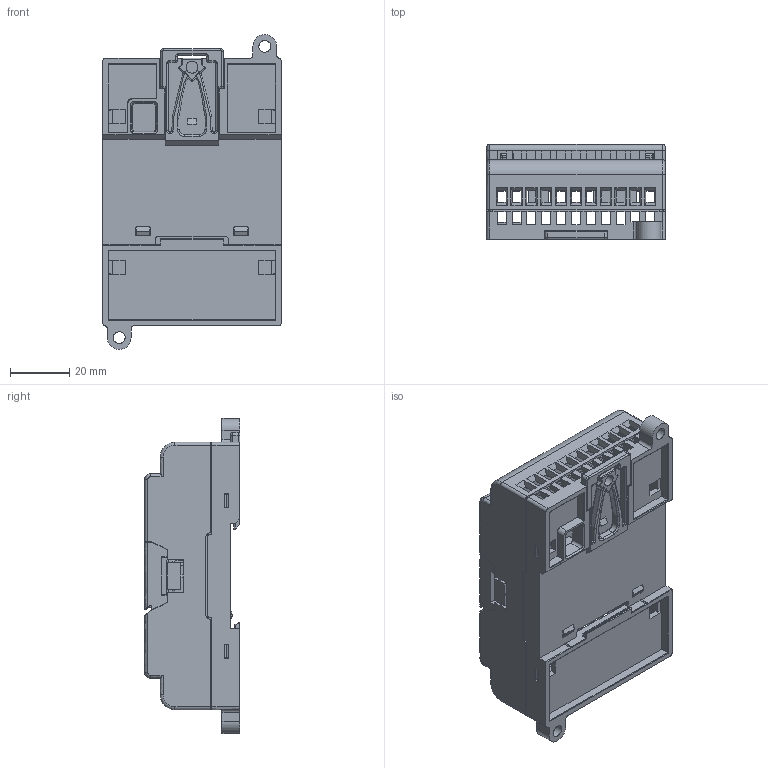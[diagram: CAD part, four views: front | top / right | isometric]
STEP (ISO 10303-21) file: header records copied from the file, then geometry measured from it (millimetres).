
FILE_DESCRIPTION(/* description */ (''),/* implementation_level */ '2;1');
FILE_NAME(/* name */ 'b1-14m-slim-20210609',/* time_stamp */ '2021-12-10T04:10:35+08:00',/* author */ (''),/* organization */ (''),/* preprocessor_version */ 'ST-DEVELOPER v16.5',/* originating_system */ '',/* authorisation */ '');
FILE_SCHEMA (('AUTOMOTIVE_DESIGN'));
Length unit declared in the file: millimetre
Products named in the file (6): Document; JOIN; B1-NEW-14M-DOWN_COVER_THIN; CV_PS; B1-14M-IO2_COVER; B1-NEW-14M-UP_COVER
Assembly tree (5 placements, depth 2):
  Document
    JOIN
    B1-NEW-14M-DOWN_COVER_THIN
    CV_PS
    B1-14M-IO2_COVER
    B1-NEW-14M-UP_COVER
Bounding box: 60 x 32.15 x 105.99 mm (x, y, z)
Volume: 39155.8 mm3; surface area: 52183.5 mm2
Topology: 5 solids, 5 shells, 1771 faces, 5102 edges, 3253 vertices
Faces by surface type: plane 1266, bspline 505
Entity records: 63727 total; most frequent: CARTESIAN_POINT 31001, ORIENTED_EDGE 10204, EDGE_CURVE 5102, B_SPLINE_CURVE_WITH_KNOTS 4374, VERTEX_POINT 3253, EDGE_LOOP 2001, ADVANCED_FACE 1771, FACE_OUTER_BOUND 1771
